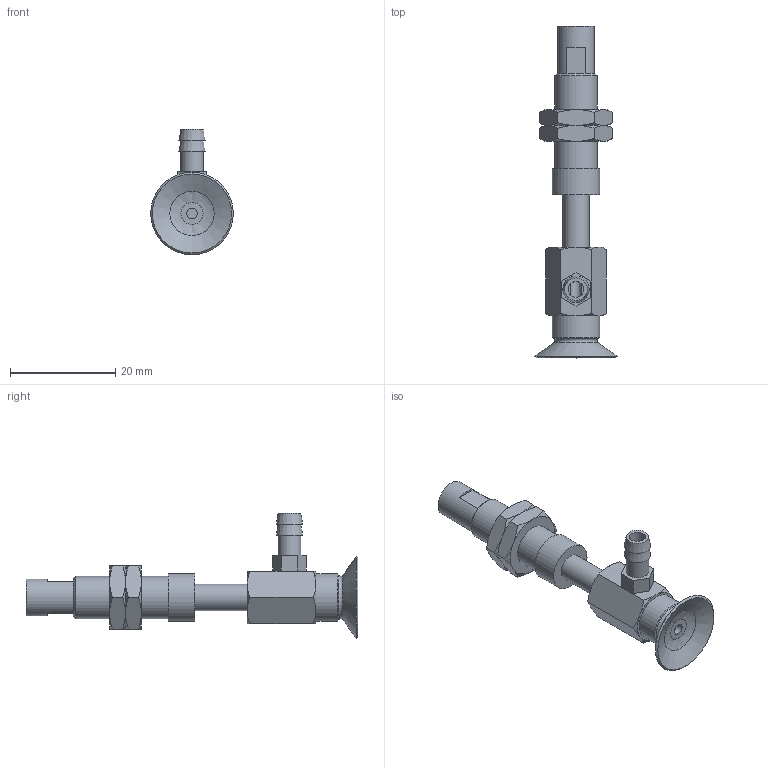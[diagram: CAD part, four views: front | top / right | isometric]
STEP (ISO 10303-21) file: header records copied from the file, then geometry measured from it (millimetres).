
FILE_DESCRIPTION(('STEP AP203'),'1');
FILE_NAME('-T.stp','2025-04-09T07:03:42',(' '),(' '),'Spatial InterOp 3D',' ',' ');
FILE_SCHEMA(('CONFIG_CONTROL_DESIGN'));
Length unit declared in the file: millimetre
Products named in the file (7): BNABPFYS-15A-10-※-T; CONNECTOR-15A-10; Nut-15A-10-s; NAPFTS-15A-10-FBODY; NAPFTS-15A-10-MBODY; BPFG-15A-※; T
Assembly tree (7 placements, depth 2):
  BNABPFYS-15A-10-※-T
    CONNECTOR-15A-10
    Nut-15A-10-s  x2
    NAPFTS-15A-10-FBODY
    NAPFTS-15A-10-MBODY
    BPFG-15A-※
    T
Bounding box: 15.7 x 63 x 23.85 mm (x, y, z)
Volume: 3790 mm3; surface area: 4816.2 mm2
Topology: 7 solids, 7 shells, 147 faces, 305 edges, 185 vertices
Faces by surface type: plane 63, cone 54, cylinder 20, torus 9, bspline 1
Full cylindrical faces by diameter (mm): 2 x2, 3 x1, 4 x2, 4.134 x2, 4.3 x1, 5 x4, 6 x2, 7 x1, 7.188 x2, 8 x1, 9 x2
Entity records: 3613 total; most frequent: CARTESIAN_POINT 863, DIRECTION 508, ORIENTED_EDGE 412, AXIS2_PLACEMENT_3D 225, EDGE_CURVE 206, EDGE_LOOP 192, FACE_OUTER_BOUND 153, VERTEX_POINT 150
